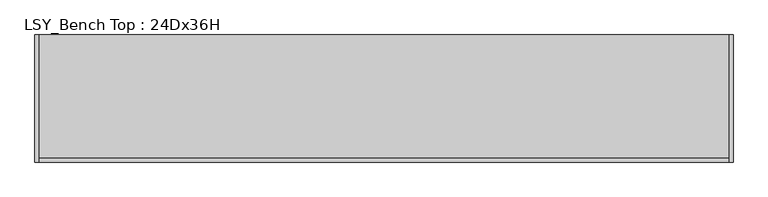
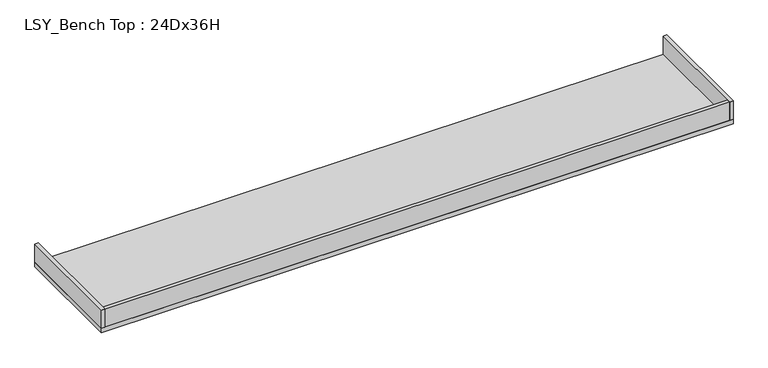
"""IFC4 building model written with IfcOpenShell, lengths in millimetres: furniture geometry, LSY_Bench Top : 24Dx36H."""

from ifc_helpers import new_model, si_unit, frame, origin, place, context, project, spatial, polyline, outline, extrude, source, transform, mapped, element, save


def lsy_bench_top_24dx36h_e849d271(model_context):
    return source(origin(), model_context, "Body", "SweptSolid", [
        extrude(outline(polyline([(2147.5752049, 615.0), (2128.5752049, 615.0), (2128.5752049, 1224.6), (2147.5752049, 1224.6), (2147.5752049, 615.0)])), frame((0.0, 0.0, 914.4), z_axis=(0.0, 0.0, 1.0), x_axis=(1.0, 0.0, 0.0)), (0.0, 0.0, 1.0), 102.0),
        extrude(outline(polyline([(-1200.4622951, 615.0), (-1200.4622951, 1224.6), (-1181.4622951, 1224.6), (-1181.4622951, 615.0), (-1200.4622951, 615.0)])), frame((0.0, 0.0, 914.4), z_axis=(0.0, 0.0, 1.0), x_axis=(1.0, 0.0, 0.0)), (0.0, 0.0, 1.0), 102.0),
        extrude(outline(polyline([(2147.5752049, 615.0), (-1200.4622951, 615.0), (-1200.4622951, 1224.6), (2147.5752049, 1224.6), (2147.5752049, 615.0)])), frame((0.0, 0.0, 889.0), z_axis=(0.0, 0.0, 1.0), x_axis=(1.0, 0.0, 0.0)), (0.0, 0.0, 1.0), 25.4),
        extrude(outline(polyline([(2147.5752049, 615.0), (-1200.4622951, 615.0), (-1200.4622951, 634.0), (2147.5752049, 634.0), (2147.5752049, 615.0)])), frame((0.0, 0.0, 914.4), z_axis=(0.0, 0.0, 1.0), x_axis=(1.0, 0.0, 0.0)), (0.0, 0.0, 1.0), 102.0),
    ])


if __name__ == "__main__":
    model = new_model("IFC4")
    model_context = context("Model", 3, world=origin())
    ifc_project = project(units=[si_unit("LENGTHUNIT", "METRE", prefix="MILLI")], contexts=[model_context])
    site = spatial("IfcSite", under=ifc_project)
    building = spatial("IfcBuilding", under=site)
    placement = place(None, origin())
    lsy_bench_top_24dx36h_shape = lsy_bench_top_24dx36h_e849d271(model_context)
    element("IfcFurniture", 1, ObjectType="LSY_Bench Top : 24Dx36H", at=placement, inside=building, context=model_context, shape_type="MappedRepresentation", body=[
        mapped(lsy_bench_top_24dx36h_shape, transform((0.0, 0.0, 0.0), x_axis=(1.0, 0.0, 0.0), y_axis=(0.0, 1.0, 0.0), z_axis=(0.0, 0.0, 1.0))),
    ])
    save(model, "model.ifc")
